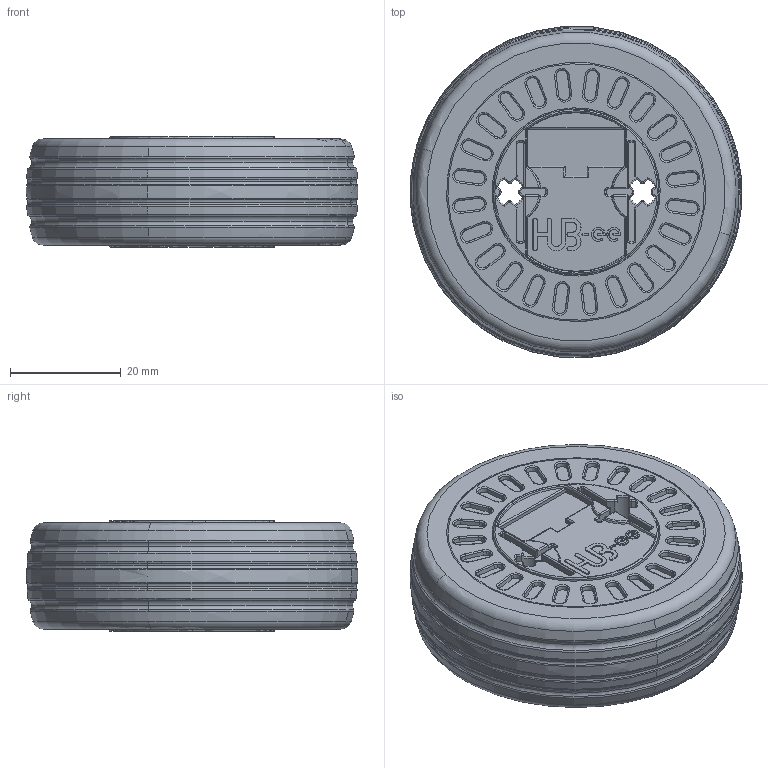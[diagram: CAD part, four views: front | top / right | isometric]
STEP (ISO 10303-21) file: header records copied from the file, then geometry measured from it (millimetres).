
FILE_DESCRIPTION (( 'STEP AP203' ), '1' );
FILE_NAME ('HUBee HUB and Tyre.STEP', '2013-02-22T16:40:55', ( 'tom' ), ( '' ), 'SwSTEP 2.0', 'SolidWorks 2011', '' );
FILE_SCHEMA (( 'CONFIG_CONTROL_DESIGN' ));
Length unit declared in the file: millimetre
Products named in the file (4): HUBee HUB and Tyre; HUBee Tyre; Hubee Rim_OuterShell PCB Side; HUBee Core
Assembly tree (4 placements, depth 2):
  HUBee HUB and Tyre
    Hubee Rim_OuterShell PCB Side  x2
    HUBee Core
    HUBee Tyre
Bounding box: 59.87 x 59.81 x 20 mm (x, y, z)
Volume: 43076.9 mm3; surface area: 27918 mm2
Topology: 4 solids, 4 shells, 1676 faces, 4247 edges, 2615 vertices
Faces by surface type: cone 494, plane 432, torus 346, cylinder 274, bspline 92, sphere 38
Entity records: 36733 total; most frequent: CARTESIAN_POINT 8600, DIRECTION 6073, ORIENTED_EDGE 5814, EDGE_CURVE 2907, AXIS2_PLACEMENT_3D 2530, VERTEX_POINT 1793, CIRCLE 1432, EDGE_LOOP 1206
